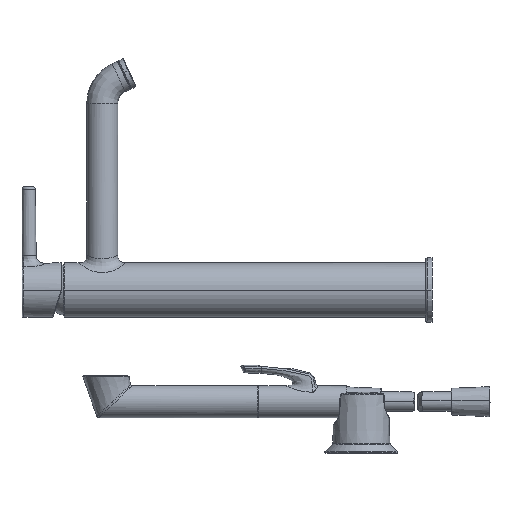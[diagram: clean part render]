
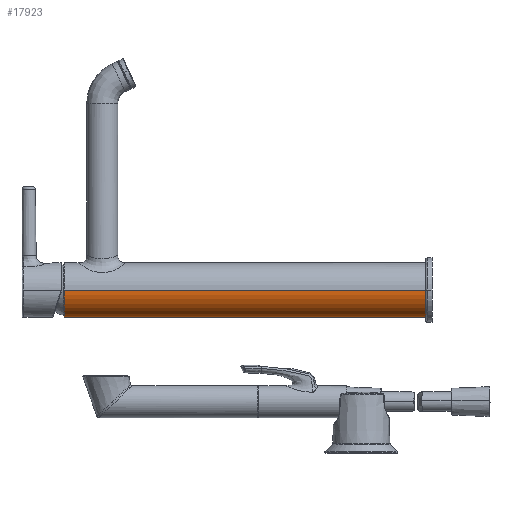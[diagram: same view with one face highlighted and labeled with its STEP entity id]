
A CAD part, left-side view. The second image highlights one B-rep face of the part: STEP entity #17923.
In plain terms, the highlighted cylindrical face has radius 21 mm (diameter 42 mm), a partial arc.
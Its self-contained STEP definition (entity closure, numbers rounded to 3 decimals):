
#35 = CARTESIAN_POINT ( 'NONE',  ( -21., 0., 0. ) ) ;
#785 = CARTESIAN_POINT ( 'NONE',  ( 21., 140., 0. ) ) ;
#2405 = EDGE_CURVE ( 'NONE', #4371, #16143, #4667, .T. ) ;
#4077 = DIRECTION ( 'NONE',  ( 0., -1., 0. ) ) ;
#4371 = VERTEX_POINT ( 'NONE', #35 ) ;
#4667 = LINE ( 'NONE', #6594, #25837 ) ;
#4965 = DIRECTION ( 'NONE',  ( 0., 1., 0. ) ) ;
#5029 = ORIENTED_EDGE ( 'NONE', *, *, #2405, .T. ) ;
#5219 = FACE_OUTER_BOUND ( 'NONE', #15144, .T. ) ;
#6594 = CARTESIAN_POINT ( 'NONE',  ( -21., 140., 0. ) ) ;
#7271 = VECTOR ( 'NONE', #4965, 1000. ) ;
#7826 = AXIS2_PLACEMENT_3D ( 'NONE', #10919, #24114, #26235 ) ;
#7855 = VERTEX_POINT ( 'NONE', #16309 ) ;
#8802 = AXIS2_PLACEMENT_3D ( 'NONE', #16987, #15055, #28152 ) ;
#9115 = DIRECTION ( 'NONE',  ( 0., 1., 0. ) ) ;
#9710 = CYLINDRICAL_SURFACE ( 'NONE', #8802, 21. ) ;
#10919 = CARTESIAN_POINT ( 'NONE',  ( 0., 0., 0. ) ) ;
#10956 = ORIENTED_EDGE ( 'NONE', *, *, #18516, .T. ) ;
#12302 = AXIS2_PLACEMENT_3D ( 'NONE', #24160, #4077, #12789 ) ;
#12789 = DIRECTION ( 'NONE',  ( 1., 0., 0. ) ) ;
#13556 = CIRCLE ( 'NONE', #7826, 21. ) ;
#14415 = EDGE_CURVE ( 'NONE', #7855, #4371, #13556, .T. ) ;
#15055 = DIRECTION ( 'NONE',  ( 0., 1., 0. ) ) ;
#15144 = EDGE_LOOP ( 'NONE', ( #18803, #5029, #10956, #21891 ) ) ;
#16143 = VERTEX_POINT ( 'NONE', #24519 ) ;
#16309 = CARTESIAN_POINT ( 'NONE',  ( 21., 0., 0. ) ) ;
#16987 = CARTESIAN_POINT ( 'NONE',  ( 0., 140., 0. ) ) ;
#17732 = VERTEX_POINT ( 'NONE', #27318 ) ;
#17923 = ADVANCED_FACE ( 'NONE', ( #5219 ), #9710, .T. ) ;
#18026 = LINE ( 'NONE', #785, #7271 ) ;
#18516 = EDGE_CURVE ( 'NONE', #16143, #17732, #28089, .T. ) ;
#18803 = ORIENTED_EDGE ( 'NONE', *, *, #14415, .T. ) ;
#21891 = ORIENTED_EDGE ( 'NONE', *, *, #25234, .F. ) ;
#24114 = DIRECTION ( 'NONE',  ( 0., 1., 0. ) ) ;
#24160 = CARTESIAN_POINT ( 'NONE',  ( 0., 280., 0. ) ) ;
#24519 = CARTESIAN_POINT ( 'NONE',  ( -21., 280., 0. ) ) ;
#25234 = EDGE_CURVE ( 'NONE', #7855, #17732, #18026, .T. ) ;
#25837 = VECTOR ( 'NONE', #9115, 1000. ) ;
#26235 = DIRECTION ( 'NONE',  ( 1., 0., 0. ) ) ;
#27318 = CARTESIAN_POINT ( 'NONE',  ( 21., 280., 0. ) ) ;
#28089 = CIRCLE ( 'NONE', #12302, 21. ) ;
#28152 = DIRECTION ( 'NONE',  ( 1., 0., 0. ) ) ;
